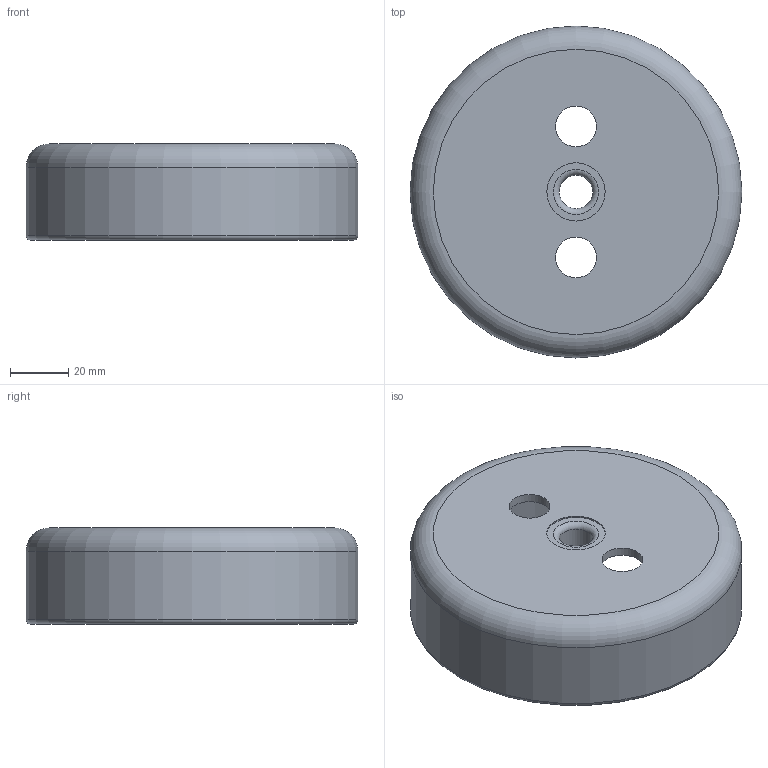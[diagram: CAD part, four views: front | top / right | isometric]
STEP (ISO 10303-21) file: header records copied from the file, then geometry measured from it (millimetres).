
FILE_DESCRIPTION(('Open CASCADE Model'),'2;1');
FILE_NAME('Open CASCADE Shape Model','2026-11-03T07:03:22',('Author'),( 'Open CASCADE'),'Open CASCADE STEP processor 7.8','Open CASCADE 7.8' ,'Unknown');
FILE_SCHEMA(('CONFIG_CONTROL_DESIGN'));
Length unit declared in the file: millimetre
Products named in the file (1): Open CASCADE STEP translator 7.8 3
Bounding box: 114 x 114 x 33 mm (x, y, z)
Volume: 58750.9 mm3; surface area: 40442.9 mm2
Topology: 1 solids, 1 shells, 16 faces, 30 edges, 18 vertices
Faces by surface type: cylinder 7, torus 5, plane 4
Full cylindrical faces by diameter (mm): 11.5 x1, 14 x2, 17.5 x1, 20 x1, 108 x1, 114 x1
Entity records: 869 total; most frequent: CARTESIAN_POINT 161, DIRECTION 141, ORIENTED_EDGE 60, PCURVE 60, DEFINITIONAL_REPRESENTATION 60, LINE 55, VECTOR 55, AXIS2_PLACEMENT_3D 40
